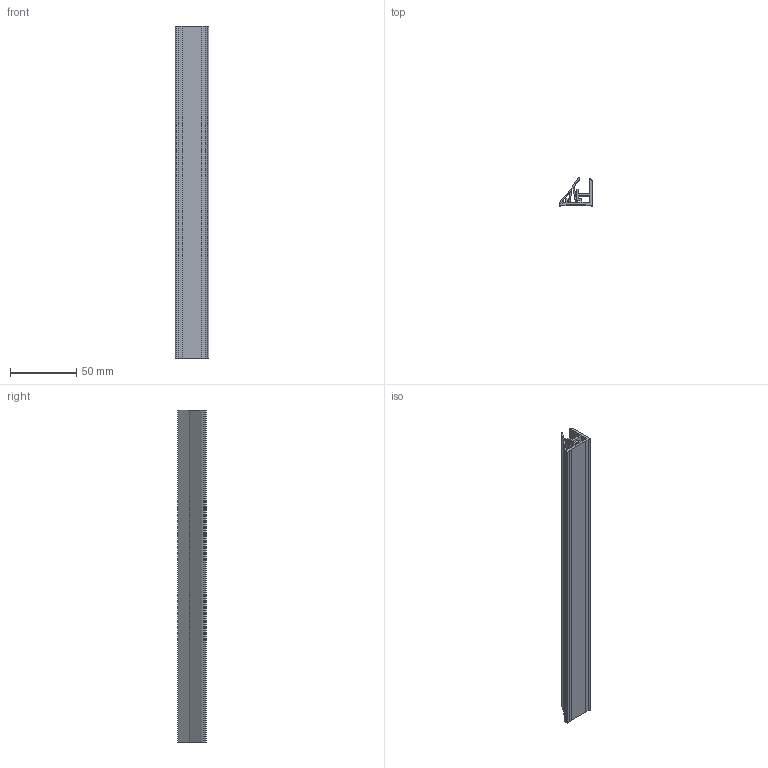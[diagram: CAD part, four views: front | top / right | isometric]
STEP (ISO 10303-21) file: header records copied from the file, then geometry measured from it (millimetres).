
FILE_DESCRIPTION (( 'STEP AP214' ), '1' );
FILE_NAME ('F50827A.step', '2024-12-03T16:18:14', ( '' ), ( '' ), 'SwSTEP 2.0', 'SolidWorks 2023', '' );
FILE_SCHEMA (( 'AUTOMOTIVE_DESIGN' ));
Length unit declared in the file: millimetre
Products named in the file (3): F50827A-1; F50827A-2; F50827A
Assembly tree (2 placements, depth 2):
  F50827A
    F50827A-1
    F50827A-2
Bounding box: 25 x 21.62 x 250 mm (x, y, z)
Volume: 40587.5 mm3; surface area: 58694.6 mm2
Topology: 3 solids, 3 shells, 73 faces, 201 edges, 134 vertices
Faces by surface type: plane 55, cylinder 18
Entity records: 2412 total; most frequent: CARTESIAN_POINT 413, ORIENTED_EDGE 402, DIRECTION 393, EDGE_CURVE 201, VECTOR 165, LINE 165, VERTEX_POINT 134, AXIS2_PLACEMENT_3D 114
